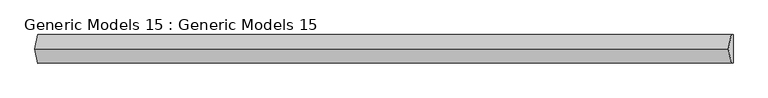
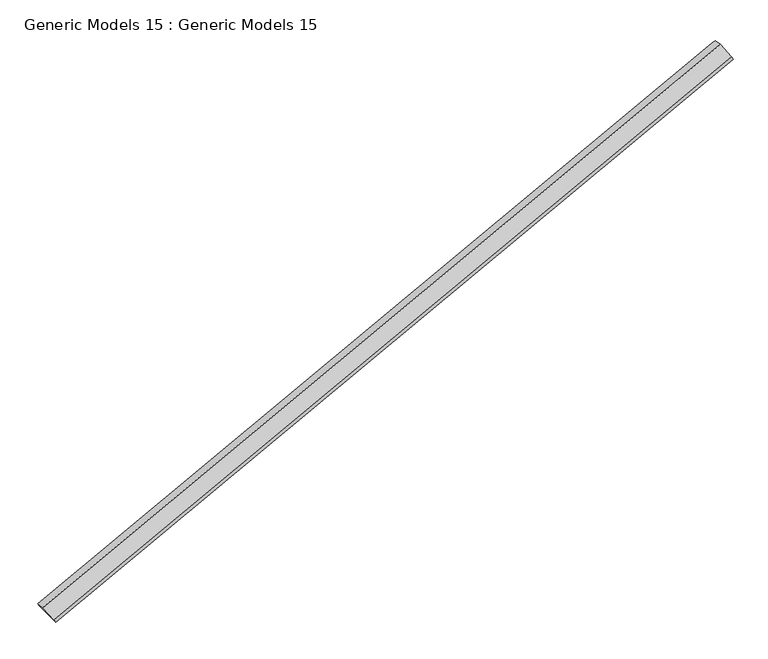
"""IFC4 building model written with IfcOpenShell, lengths in millimetres: proxy geometry, Generic Models 15 : Generic Models 15."""

from ifc_helpers import new_model, si_unit, origin, place, context, project, spatial, faceted_brep, source, transform, mapped, element, save


def generic_models_15_generic_models_15_bd427031(model_context):
    return source(origin(), model_context, "Body", "Brep", [
        faceted_brep([(16743.1337784, 6655.457015, 8200.0), (16743.1337784, 6795.457015, 8200.0), (16733.776024, 6795.457015, 8217.6757583), (16719.7393923, 6725.457015, 8244.1893958), (16733.776024, 6655.457015, 8217.6757583), (13343.1337784, 6795.457015, 6400.0), (13343.1337784, 6655.457015, 6400.0), (13333.776024, 6655.457015, 6417.6757583), (13319.7393923, 6725.457015, 6444.1893958), (13333.776024, 6795.457015, 6417.6757583), (16717.7337784, 6795.457015, 8209.1828048), (16717.7337784, 6725.457015, 8243.1276002), (16717.7337784, 6655.457015, 8209.1828048)], [[[0, 1, 2, 3, 4]], [[5, 6, 7, 8, 9]], [[2, 1, 5, 9, 10]], [[3, 2, 10, 9, 8, 11]], [[4, 3, 11, 8, 7, 12]], [[0, 4, 12, 7, 6]], [[0, 6, 5, 1]]]),
    ])


if __name__ == "__main__":
    model = new_model("IFC4")
    model_context = context("Model", 3, world=origin())
    ifc_project = project(units=[si_unit("LENGTHUNIT", "METRE", prefix="MILLI")], contexts=[model_context])
    site = spatial("IfcSite", under=ifc_project)
    building = spatial("IfcBuilding", under=site)
    placement = place(None, origin())
    generic_models_15_generic_models_15_shape = generic_models_15_generic_models_15_bd427031(model_context)
    element("IfcBuildingElementProxy", 1, Name="Generic Models 15 : Generic Models 15", ObjectType="Generic Models 15 : Generic Models 15", at=placement, inside=building, context=model_context, shape_type="MappedRepresentation", body=[
        mapped(generic_models_15_generic_models_15_shape, transform((0.0, 0.0, 0.0), x_axis=(1.0, 0.0, 0.0), y_axis=(0.0, 1.0, 0.0), z_axis=(0.0, 0.0, 1.0))),
    ])
    save(model, "model.ifc")
